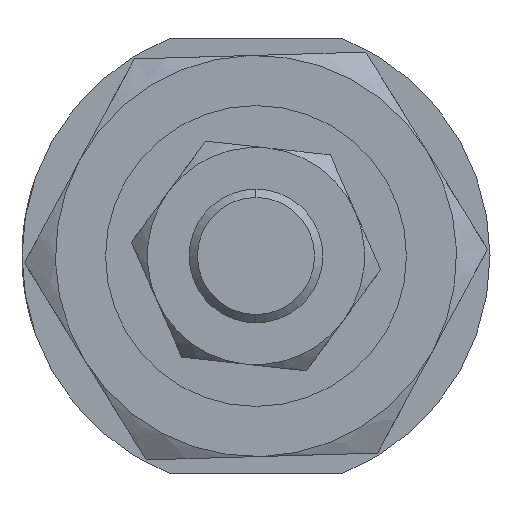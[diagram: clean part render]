
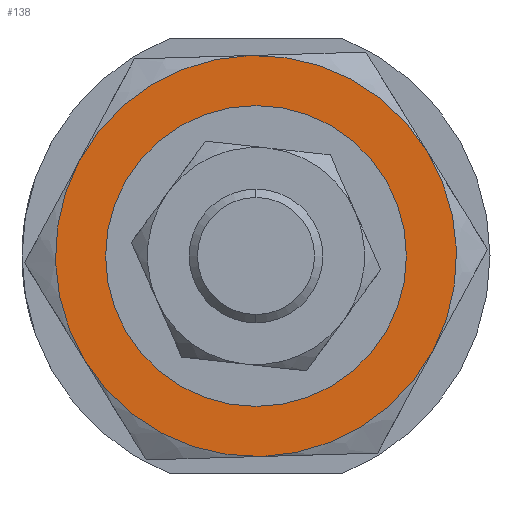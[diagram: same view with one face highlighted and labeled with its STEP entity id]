
A CAD part, left-side view. The second image highlights one B-rep face of the part: STEP entity #138.
In plain terms, the highlighted planar face has unit normal (-1, 0, 0) as drawn and (0, 0, -1) by its records, which use the part's own axes.
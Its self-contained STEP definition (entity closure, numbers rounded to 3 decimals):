
#4 = AXIS2_PLACEMENT_3D ( 'NONE', #2792, #3964, #2117 ) ;
#33 = VERTEX_POINT ( 'NONE', #175 ) ;
#47 = FACE_BOUND ( 'NONE', #2169, .T. ) ;
#100 = DIRECTION ( 'NONE',  ( 1., 0., 0. ) ) ;
#138 = ADVANCED_FACE ( 'NONE', ( #47, #2781 ), #3153, .F. ) ;
#175 = CARTESIAN_POINT ( 'NONE',  ( 8.25, 0., -4. ) ) ;
#269 = VERTEX_POINT ( 'NONE', #2790 ) ;
#368 = EDGE_CURVE ( 'NONE', #4014, #33, #995, .T. ) ;
#374 = DIRECTION ( 'NONE',  ( 1., 0., 0. ) ) ;
#431 = CARTESIAN_POINT ( 'NONE',  ( 0., 0., -4. ) ) ;
#476 = CARTESIAN_POINT ( 'NONE',  ( 0., 0., -4. ) ) ;
#495 = EDGE_CURVE ( 'NONE', #3614, #4424, #2444, .T. ) ;
#509 = EDGE_CURVE ( 'NONE', #2998, #3614, #1960, .T. ) ;
#626 = CARTESIAN_POINT ( 'NONE',  ( 12., 0., -4. ) ) ;
#709 = CARTESIAN_POINT ( 'NONE',  ( -8.25, 0., -4. ) ) ;
#752 = ORIENTED_EDGE ( 'NONE', *, *, #2726, .F. ) ;
#874 = CARTESIAN_POINT ( 'NONE',  ( -6., -10.392, -4. ) ) ;
#928 = CARTESIAN_POINT ( 'NONE',  ( 6., 10.392, -4. ) ) ;
#930 = AXIS2_PLACEMENT_3D ( 'NONE', #4203, #4274, #2833 ) ;
#995 = CIRCLE ( 'NONE', #1186, 8.25 ) ;
#1045 = AXIS2_PLACEMENT_3D ( 'NONE', #1634, #2167, #100 ) ;
#1186 = AXIS2_PLACEMENT_3D ( 'NONE', #2375, #2291, #374 ) ;
#1220 = ORIENTED_EDGE ( 'NONE', *, *, #368, .T. ) ;
#1253 = CIRCLE ( 'NONE', #3510, 12. ) ;
#1298 = VERTEX_POINT ( 'NONE', #928 ) ;
#1456 = DIRECTION ( 'NONE',  ( 1., 0., 0. ) ) ;
#1550 = ORIENTED_EDGE ( 'NONE', *, *, #509, .F. ) ;
#1595 = CIRCLE ( 'NONE', #4, 12. ) ;
#1634 = CARTESIAN_POINT ( 'NONE',  ( 0., 0., -4. ) ) ;
#1768 = ORIENTED_EDGE ( 'NONE', *, *, #2616, .T. ) ;
#1801 = DIRECTION ( 'NONE',  ( 0., 0., 1. ) ) ;
#1826 = DIRECTION ( 'NONE',  ( 1., 0., 0. ) ) ;
#1937 = ORIENTED_EDGE ( 'NONE', *, *, #2458, .F. ) ;
#1960 = CIRCLE ( 'NONE', #1045, 12. ) ;
#2026 = DIRECTION ( 'NONE',  ( 0., 0., 1. ) ) ;
#2109 = DIRECTION ( 'NONE',  ( 1., 0., 0. ) ) ;
#2117 = DIRECTION ( 'NONE',  ( 1., 0., 0. ) ) ;
#2127 = AXIS2_PLACEMENT_3D ( 'NONE', #476, #3223, #2714 ) ;
#2167 = DIRECTION ( 'NONE',  ( 0., 0., 1. ) ) ;
#2169 = EDGE_LOOP ( 'NONE', ( #1768, #1220 ) ) ;
#2177 = CARTESIAN_POINT ( 'NONE',  ( 0., 0., -4. ) ) ;
#2263 = EDGE_LOOP ( 'NONE', ( #1937, #2983, #752, #3793, #1550, #3555 ) ) ;
#2286 = AXIS2_PLACEMENT_3D ( 'NONE', #4223, #1801, #2109 ) ;
#2291 = DIRECTION ( 'NONE',  ( 0., 0., 1. ) ) ;
#2359 = CIRCLE ( 'NONE', #2286, 8.25 ) ;
#2375 = CARTESIAN_POINT ( 'NONE',  ( 0., 0., -4. ) ) ;
#2444 = CIRCLE ( 'NONE', #930, 12. ) ;
#2458 = EDGE_CURVE ( 'NONE', #2708, #1298, #1253, .T. ) ;
#2616 = EDGE_CURVE ( 'NONE', #33, #4014, #2359, .T. ) ;
#2708 = VERTEX_POINT ( 'NONE', #626 ) ;
#2714 = DIRECTION ( 'NONE',  ( 1., 0., 0. ) ) ;
#2726 = EDGE_CURVE ( 'NONE', #4424, #269, #1595, .T. ) ;
#2781 = FACE_OUTER_BOUND ( 'NONE', #2263, .T. ) ;
#2790 = CARTESIAN_POINT ( 'NONE',  ( 6., -10.392, -4. ) ) ;
#2792 = CARTESIAN_POINT ( 'NONE',  ( 0., 0., -4. ) ) ;
#2801 = CIRCLE ( 'NONE', #4131, 12. ) ;
#2808 = AXIS2_PLACEMENT_3D ( 'NONE', #3384, #4175, #1826 ) ;
#2833 = DIRECTION ( 'NONE',  ( 1., 0., 0. ) ) ;
#2952 = CIRCLE ( 'NONE', #2808, 12. ) ;
#2983 = ORIENTED_EDGE ( 'NONE', *, *, #3006, .F. ) ;
#2998 = VERTEX_POINT ( 'NONE', #3665 ) ;
#3006 = EDGE_CURVE ( 'NONE', #269, #2708, #2952, .T. ) ;
#3153 = PLANE ( 'NONE',  #2127 ) ;
#3223 = DIRECTION ( 'NONE',  ( 0., 0., 1. ) ) ;
#3292 = CARTESIAN_POINT ( 'NONE',  ( -12., 0., -4. ) ) ;
#3321 = DIRECTION ( 'NONE',  ( 0., 0., 1. ) ) ;
#3384 = CARTESIAN_POINT ( 'NONE',  ( 0., 0., -4. ) ) ;
#3510 = AXIS2_PLACEMENT_3D ( 'NONE', #2177, #2026, #3889 ) ;
#3555 = ORIENTED_EDGE ( 'NONE', *, *, #4390, .F. ) ;
#3614 = VERTEX_POINT ( 'NONE', #3292 ) ;
#3665 = CARTESIAN_POINT ( 'NONE',  ( -6., 10.392, -4. ) ) ;
#3793 = ORIENTED_EDGE ( 'NONE', *, *, #495, .F. ) ;
#3889 = DIRECTION ( 'NONE',  ( 1., 0., 0. ) ) ;
#3964 = DIRECTION ( 'NONE',  ( 0., 0., 1. ) ) ;
#4014 = VERTEX_POINT ( 'NONE', #709 ) ;
#4131 = AXIS2_PLACEMENT_3D ( 'NONE', #431, #3321, #1456 ) ;
#4175 = DIRECTION ( 'NONE',  ( 0., 0., 1. ) ) ;
#4203 = CARTESIAN_POINT ( 'NONE',  ( 0., 0., -4. ) ) ;
#4223 = CARTESIAN_POINT ( 'NONE',  ( 0., 0., -4. ) ) ;
#4274 = DIRECTION ( 'NONE',  ( 0., 0., 1. ) ) ;
#4390 = EDGE_CURVE ( 'NONE', #1298, #2998, #2801, .T. ) ;
#4424 = VERTEX_POINT ( 'NONE', #874 ) ;
